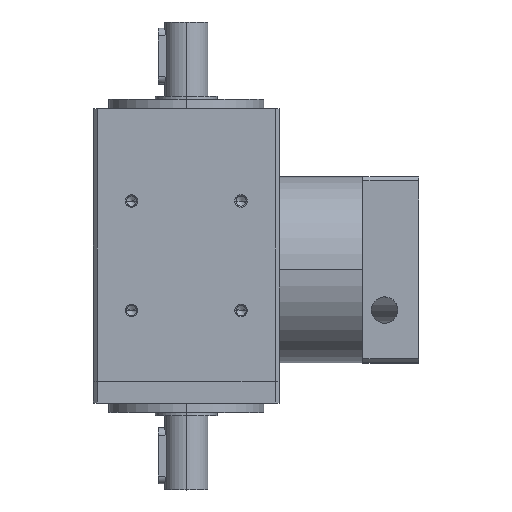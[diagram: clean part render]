
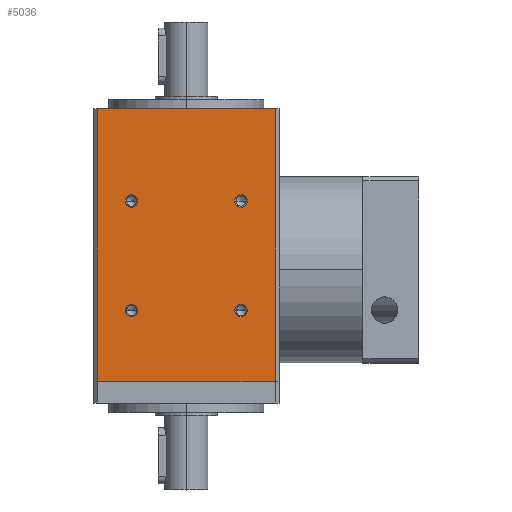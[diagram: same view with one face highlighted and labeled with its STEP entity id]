
A CAD part, top view. The second image highlights one B-rep face of the part: STEP entity #5036.
In plain terms, the highlighted planar face has unit normal (0, 0, 1).
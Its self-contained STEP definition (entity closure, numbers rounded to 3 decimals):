
#427 = AXIS2_PLACEMENT_3D ( 'NONE', #1849, #1850, #1851 ) ;
#986 = CIRCLE ( 'NONE', #3535, 2. ) ;
#1001 = CIRCLE ( 'NONE', #3538, 2. ) ;
#1016 = CIRCLE ( 'NONE', #3541, 2. ) ;
#1237 = CIRCLE ( 'NONE', #427, 2. ) ;
#1328 = LINE ( 'NONE', #5360, #1330 ) ;
#1330 = VECTOR ( 'NONE', #5361, 1000. ) ;
#1849 = CARTESIAN_POINT ( 'NONE',  ( -17.678, -13.178, 30. ) ) ;
#1850 = DIRECTION ( 'NONE',  ( 0., 0., 1. ) ) ;
#1851 = DIRECTION ( 'NONE',  ( 1., 0., 0. ) ) ;
#1951 = VERTEX_POINT ( 'NONE', #2156 ) ;
#1952 = VERTEX_POINT ( 'NONE', #2157 ) ;
#1958 = VERTEX_POINT ( 'NONE', #2163 ) ;
#1959 = VERTEX_POINT ( 'NONE', #2164 ) ;
#1965 = VERTEX_POINT ( 'NONE', #2170 ) ;
#1966 = VERTEX_POINT ( 'NONE', #2171 ) ;
#1972 = VERTEX_POINT ( 'NONE', #2177 ) ;
#1973 = VERTEX_POINT ( 'NONE', #2178 ) ;
#2018 = VERTEX_POINT ( 'NONE', #2223 ) ;
#2019 = VERTEX_POINT ( 'NONE', #2224 ) ;
#2032 = VERTEX_POINT ( 'NONE', #2237 ) ;
#2033 = VERTEX_POINT ( 'NONE', #2238 ) ;
#2156 = CARTESIAN_POINT ( 'NONE',  ( -19.678, 22.178, 30. ) ) ;
#2157 = CARTESIAN_POINT ( 'NONE',  ( -15.678, 22.178, 30. ) ) ;
#2163 = CARTESIAN_POINT ( 'NONE',  ( 15.678, 22.178, 30. ) ) ;
#2164 = CARTESIAN_POINT ( 'NONE',  ( 19.678, 22.178, 30. ) ) ;
#2170 = CARTESIAN_POINT ( 'NONE',  ( 15.678, -13.178, 30. ) ) ;
#2171 = CARTESIAN_POINT ( 'NONE',  ( 19.678, -13.178, 30. ) ) ;
#2177 = CARTESIAN_POINT ( 'NONE',  ( -19.678, -13.178, 30. ) ) ;
#2178 = CARTESIAN_POINT ( 'NONE',  ( -15.678, -13.178, 30. ) ) ;
#2223 = CARTESIAN_POINT ( 'NONE',  ( -28.675, -36., 30. ) ) ;
#2224 = CARTESIAN_POINT ( 'NONE',  ( -28.675, 52., 30. ) ) ;
#2237 = CARTESIAN_POINT ( 'NONE',  ( 28.675, 52., 30. ) ) ;
#2238 = CARTESIAN_POINT ( 'NONE',  ( 28.675, -36., 30. ) ) ;
#2301 = FACE_BOUND ( 'NONE', #4315, .T. ) ;
#2302 = FACE_BOUND ( 'NONE', #4294, .T. ) ;
#2303 = FACE_BOUND ( 'NONE', #4255, .T. ) ;
#2304 = FACE_BOUND ( 'NONE', #4288, .T. ) ;
#2305 = FACE_OUTER_BOUND ( 'NONE', #4250, .T. ) ;
#2732 = LINE ( 'NONE', #5894, #2734 ) ;
#2734 = VECTOR ( 'NONE', #5895, 1000. ) ;
#2736 = CIRCLE ( 'NONE', #4069, 2. ) ;
#2737 = CIRCLE ( 'NONE', #4070, 2. ) ;
#2738 = CIRCLE ( 'NONE', #4071, 2. ) ;
#2739 = LINE ( 'NONE', #5911, #2741 ) ;
#2740 = CIRCLE ( 'NONE', #4072, 2. ) ;
#2741 = VECTOR ( 'NONE', #5912, 1000. ) ;
#2742 = LINE ( 'NONE', #5913, #2743 ) ;
#2743 = VECTOR ( 'NONE', #5914, 1000. ) ;
#3219 = EDGE_CURVE ( 'NONE', #1951, #1952, #986, .T. ) ;
#3228 = EDGE_CURVE ( 'NONE', #1958, #1959, #1001, .T. ) ;
#3237 = EDGE_CURVE ( 'NONE', #1965, #1966, #1016, .T. ) ;
#3535 = AXIS2_PLACEMENT_3D ( 'NONE', #4786, #4787, #4788 ) ;
#3538 = AXIS2_PLACEMENT_3D ( 'NONE', #4807, #4808, #4809 ) ;
#3541 = AXIS2_PLACEMENT_3D ( 'NONE', #4828, #4829, #4830 ) ;
#3640 = EDGE_CURVE ( 'NONE', #1972, #1973, #1237, .T. ) ;
#3698 = EDGE_CURVE ( 'NONE', #2018, #2019, #1328, .T. ) ;
#3914 = PLANE ( 'NONE',  #5193 ) ;
#3915 = CARTESIAN_POINT ( 'NONE',  ( -28.675, -36., 30. ) ) ;
#3916 = DIRECTION ( 'NONE',  ( 0., 0., 1. ) ) ;
#3917 = DIRECTION ( 'NONE',  ( 1., 0., 0. ) ) ;
#4069 = AXIS2_PLACEMENT_3D ( 'NONE', #5899, #5900, #5901 ) ;
#4070 = AXIS2_PLACEMENT_3D ( 'NONE', #5902, #5903, #5904 ) ;
#4071 = AXIS2_PLACEMENT_3D ( 'NONE', #5905, #5906, #5907 ) ;
#4072 = AXIS2_PLACEMENT_3D ( 'NONE', #5908, #5909, #5910 ) ;
#4250 = EDGE_LOOP ( 'NONE', ( #4494, #4493, #4492, #4491 ) ) ;
#4255 = EDGE_LOOP ( 'NONE', ( #4498, #4497 ) ) ;
#4288 = EDGE_LOOP ( 'NONE', ( #4496, #4495 ) ) ;
#4294 = EDGE_LOOP ( 'NONE', ( #4500, #4499 ) ) ;
#4315 = EDGE_LOOP ( 'NONE', ( #4502, #4501 ) ) ;
#4491 = ORIENTED_EDGE ( 'NONE', *, *, #5771, .T. ) ;
#4492 = ORIENTED_EDGE ( 'NONE', *, *, #3698, .F. ) ;
#4493 = ORIENTED_EDGE ( 'NONE', *, *, #5770, .T. ) ;
#4494 = ORIENTED_EDGE ( 'NONE', *, *, #5764, .T. ) ;
#4495 = ORIENTED_EDGE ( 'NONE', *, *, #3640, .F. ) ;
#4496 = ORIENTED_EDGE ( 'NONE', *, *, #5769, .F. ) ;
#4497 = ORIENTED_EDGE ( 'NONE', *, *, #3237, .F. ) ;
#4498 = ORIENTED_EDGE ( 'NONE', *, *, #5768, .F. ) ;
#4499 = ORIENTED_EDGE ( 'NONE', *, *, #3228, .F. ) ;
#4500 = ORIENTED_EDGE ( 'NONE', *, *, #5767, .F. ) ;
#4501 = ORIENTED_EDGE ( 'NONE', *, *, #3219, .F. ) ;
#4502 = ORIENTED_EDGE ( 'NONE', *, *, #5766, .F. ) ;
#4786 = CARTESIAN_POINT ( 'NONE',  ( -17.678, 22.178, 30. ) ) ;
#4787 = DIRECTION ( 'NONE',  ( 0., 0., 1. ) ) ;
#4788 = DIRECTION ( 'NONE',  ( 1., 0., 0. ) ) ;
#4807 = CARTESIAN_POINT ( 'NONE',  ( 17.678, 22.178, 30. ) ) ;
#4808 = DIRECTION ( 'NONE',  ( 0., 0., 1. ) ) ;
#4809 = DIRECTION ( 'NONE',  ( 1., 0., 0. ) ) ;
#4828 = CARTESIAN_POINT ( 'NONE',  ( 17.678, -13.178, 30. ) ) ;
#4829 = DIRECTION ( 'NONE',  ( 0., 0., 1. ) ) ;
#4830 = DIRECTION ( 'NONE',  ( 1., 0., 0. ) ) ;
#5036 = ADVANCED_FACE ( 'NONE', ( #2301, #2302, #2303, #2304, #2305 ), #3914, .T. ) ;
#5193 = AXIS2_PLACEMENT_3D ( 'NONE', #3915, #3916, #3917 ) ;
#5360 = CARTESIAN_POINT ( 'NONE',  ( -28.675, -36., 30. ) ) ;
#5361 = DIRECTION ( 'NONE',  ( 0., 1., 0. ) ) ;
#5764 = EDGE_CURVE ( 'NONE', #2033, #2032, #2732, .T. ) ;
#5766 = EDGE_CURVE ( 'NONE', #1952, #1951, #2736, .T. ) ;
#5767 = EDGE_CURVE ( 'NONE', #1959, #1958, #2737, .T. ) ;
#5768 = EDGE_CURVE ( 'NONE', #1966, #1965, #2738, .T. ) ;
#5769 = EDGE_CURVE ( 'NONE', #1973, #1972, #2740, .T. ) ;
#5770 = EDGE_CURVE ( 'NONE', #2032, #2019, #2739, .T. ) ;
#5771 = EDGE_CURVE ( 'NONE', #2018, #2033, #2742, .T. ) ;
#5894 = CARTESIAN_POINT ( 'NONE',  ( 28.675, -36., 30. ) ) ;
#5895 = DIRECTION ( 'NONE',  ( 0., 1., 0. ) ) ;
#5899 = CARTESIAN_POINT ( 'NONE',  ( -17.678, 22.178, 30. ) ) ;
#5900 = DIRECTION ( 'NONE',  ( 0., 0., 1. ) ) ;
#5901 = DIRECTION ( 'NONE',  ( 1., 0., 0. ) ) ;
#5902 = CARTESIAN_POINT ( 'NONE',  ( 17.678, 22.178, 30. ) ) ;
#5903 = DIRECTION ( 'NONE',  ( 0., 0., 1. ) ) ;
#5904 = DIRECTION ( 'NONE',  ( 1., 0., 0. ) ) ;
#5905 = CARTESIAN_POINT ( 'NONE',  ( 17.678, -13.178, 30. ) ) ;
#5906 = DIRECTION ( 'NONE',  ( 0., 0., 1. ) ) ;
#5907 = DIRECTION ( 'NONE',  ( 1., 0., 0. ) ) ;
#5908 = CARTESIAN_POINT ( 'NONE',  ( -17.678, -13.178, 30. ) ) ;
#5909 = DIRECTION ( 'NONE',  ( 0., 0., 1. ) ) ;
#5910 = DIRECTION ( 'NONE',  ( 1., 0., 0. ) ) ;
#5911 = CARTESIAN_POINT ( 'NONE',  ( -28.675, 52., 30. ) ) ;
#5912 = DIRECTION ( 'NONE',  ( -1., 0., 0. ) ) ;
#5913 = CARTESIAN_POINT ( 'NONE',  ( -28.675, -36., 30. ) ) ;
#5914 = DIRECTION ( 'NONE',  ( 1., 0., 0. ) ) ;
